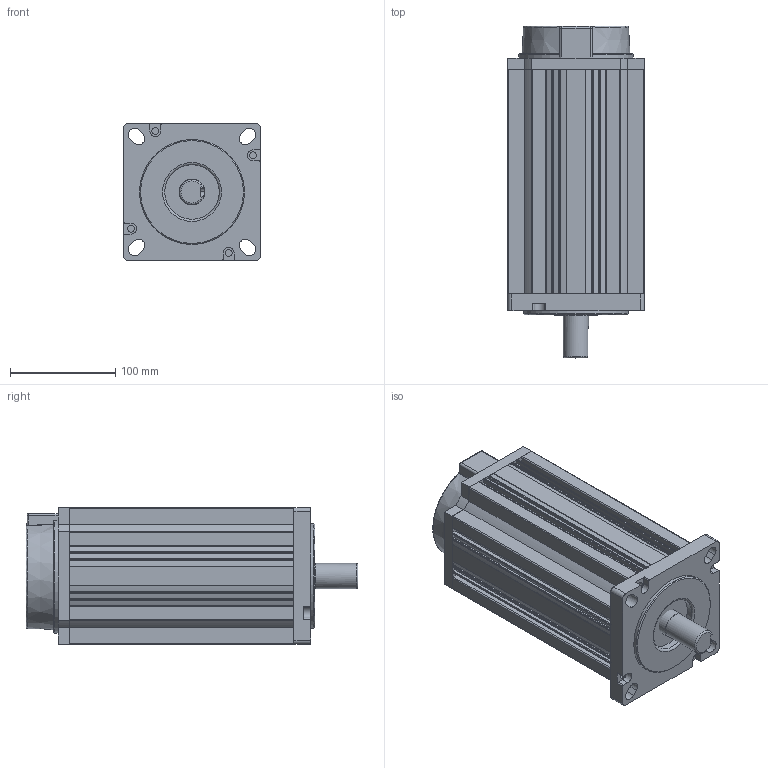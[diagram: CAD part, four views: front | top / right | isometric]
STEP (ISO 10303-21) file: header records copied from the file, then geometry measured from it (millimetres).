
FILE_DESCRIPTION(/* description */ (''),/* implementation_level */ '2;1');
FILE_NAME(/* name */ '130BYG350D-X.stp',/* time_stamp */ '2024-08-16T14:44:14+08:00',/* author */ (''),/* organization */ (''),/* preprocessor_version */ 'ST-DEVELOPER v18.1',/* originating_system */ 'SIEMENS PLM Software NX 2000',/* authorisation */ '');
FILE_SCHEMA (('AUTOMOTIVE_DESIGN { 1 0 10303 214 3 1 1 1 }'));
Length unit declared in the file: millimetre
Products named in the file (1): 925032A4A3696twj
Bounding box: 130 x 316 x 130 mm (x, y, z)
Volume: 3809461.8 mm3; surface area: 298714.9 mm2
Topology: 5 solids, 5 shells, 279 faces, 778 edges, 514 vertices
Faces by surface type: plane 133, cylinder 126, bspline 10, torus 6, cone 2, sphere 2
Full cylindrical faces by diameter (mm): 6.5 x12, 10.5 x4, 24 x1, 24.7 x1, 52 x1, 100 x1
Entity records: 9170 total; most frequent: CARTESIAN_POINT 1892, DIRECTION 1529, ORIENTED_EDGE 1478, EDGE_CURVE 739, AXIS2_PLACEMENT_3D 540, VERTEX_POINT 500, LINE 449, VECTOR 449
